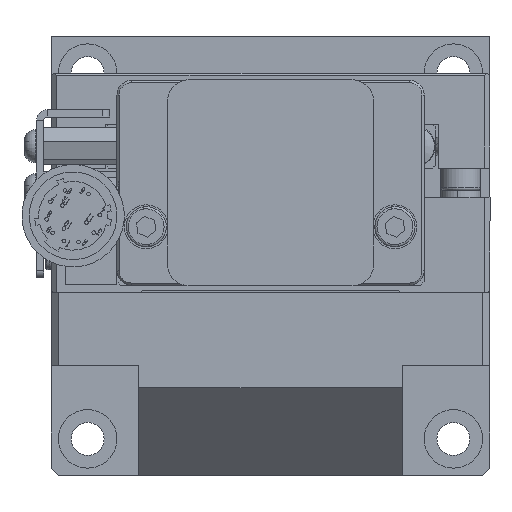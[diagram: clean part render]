
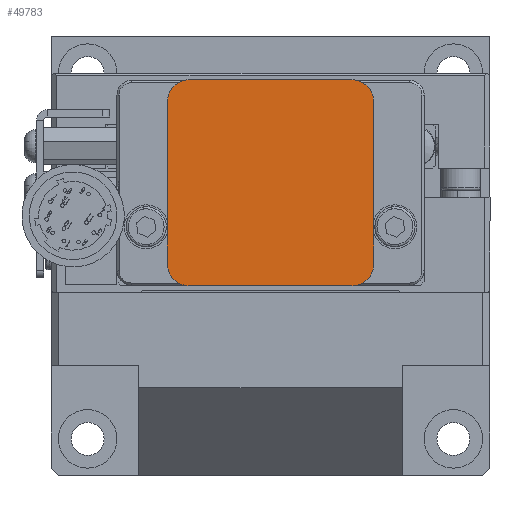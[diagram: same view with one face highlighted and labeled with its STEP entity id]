
A CAD part, front view. The second image highlights one B-rep face of the part: STEP entity #49783.
In plain terms, the highlighted planar face has unit normal (0, -1, 0).
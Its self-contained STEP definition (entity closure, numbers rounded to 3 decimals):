
#1632 = CARTESIAN_POINT ( 'NONE',  ( 11.1, -133., 26.1 ) ) ;
#3408 = CARTESIAN_POINT ( 'NONE',  ( -14.1, -133., 3.9 ) ) ;
#4447 = VERTEX_POINT ( 'NONE', #153942 ) ;
#5882 = VERTEX_POINT ( 'NONE', #134075 ) ;
#8030 = VERTEX_POINT ( 'NONE', #145589 ) ;
#9227 = CIRCLE ( 'NONE', #70155, 3. ) ;
#15377 = VECTOR ( 'NONE', #136511, 1000. ) ;
#20200 = VECTOR ( 'NONE', #67277, 1000. ) ;
#22974 = EDGE_CURVE ( 'NONE', #5882, #4447, #9227, .T. ) ;
#23562 = DIRECTION ( 'NONE',  ( 0., 0., -1. ) ) ;
#24322 = CARTESIAN_POINT ( 'NONE',  ( -11.1, -133., 26.1 ) ) ;
#30747 = CARTESIAN_POINT ( 'NONE',  ( -14.1, -133., 29.1 ) ) ;
#32252 = AXIS2_PLACEMENT_3D ( 'NONE', #145754, #60864, #82275 ) ;
#32946 = DIRECTION ( 'NONE',  ( -1., 0., 0. ) ) ;
#38330 = ORIENTED_EDGE ( 'NONE', *, *, #139880, .F. ) ;
#44807 = CARTESIAN_POINT ( 'NONE',  ( -14.1, -133., 0.9 ) ) ;
#45638 = CARTESIAN_POINT ( 'NONE',  ( -14.1, -133., 0.9 ) ) ;
#48577 = VERTEX_POINT ( 'NONE', #74658 ) ;
#49184 = DIRECTION ( 'NONE',  ( 0., -1., 0. ) ) ;
#49608 = CARTESIAN_POINT ( 'NONE',  ( 14.1, -133., 3.9 ) ) ;
#49783 = ADVANCED_FACE ( 'NONE', ( #64237 ), #51523, .T. ) ;
#50145 = DIRECTION ( 'NONE',  ( 0., -1., 0. ) ) ;
#51523 = PLANE ( 'NONE',  #141490 ) ;
#54902 = CARTESIAN_POINT ( 'NONE',  ( 11.1, -133., 0.9 ) ) ;
#57473 = DIRECTION ( 'NONE',  ( 0., 0., 1. ) ) ;
#58506 = CIRCLE ( 'NONE', #147245, 3. ) ;
#60864 = DIRECTION ( 'NONE',  ( 0., -1., 0. ) ) ;
#63360 = VERTEX_POINT ( 'NONE', #90447 ) ;
#64237 = FACE_OUTER_BOUND ( 'NONE', #148647, .T. ) ;
#64460 = AXIS2_PLACEMENT_3D ( 'NONE', #132425, #49184, #107854 ) ;
#67277 = DIRECTION ( 'NONE',  ( 1., 0., 0. ) ) ;
#70155 = AXIS2_PLACEMENT_3D ( 'NONE', #24322, #156244, #23562 ) ;
#74658 = CARTESIAN_POINT ( 'NONE',  ( -11.1, -133., 0.9 ) ) ;
#76138 = ORIENTED_EDGE ( 'NONE', *, *, #22974, .T. ) ;
#76825 = EDGE_CURVE ( 'NONE', #146172, #48577, #104349, .T. ) ;
#79662 = ORIENTED_EDGE ( 'NONE', *, *, #139462, .F. ) ;
#82275 = DIRECTION ( 'NONE',  ( 0., 0., -1. ) ) ;
#87990 = DIRECTION ( 'NONE',  ( -1., 0., 0. ) ) ;
#89215 = VERTEX_POINT ( 'NONE', #49608 ) ;
#90447 = CARTESIAN_POINT ( 'NONE',  ( 11.1, -133., 29.1 ) ) ;
#91399 = VECTOR ( 'NONE', #32946, 1000. ) ;
#102449 = CIRCLE ( 'NONE', #64460, 3. ) ;
#104349 = LINE ( 'NONE', #45638, #91399 ) ;
#105080 = LINE ( 'NONE', #44807, #127087 ) ;
#105734 = ORIENTED_EDGE ( 'NONE', *, *, #138816, .F. ) ;
#106795 = VERTEX_POINT ( 'NONE', #3408 ) ;
#107854 = DIRECTION ( 'NONE',  ( 0., 0., -1. ) ) ;
#108099 = ORIENTED_EDGE ( 'NONE', *, *, #144343, .T. ) ;
#108463 = ORIENTED_EDGE ( 'NONE', *, *, #76825, .F. ) ;
#109559 = EDGE_CURVE ( 'NONE', #8030, #63360, #58506, .T. ) ;
#110643 = CIRCLE ( 'NONE', #32252, 3. ) ;
#114866 = EDGE_CURVE ( 'NONE', #146172, #89215, #102449, .T. ) ;
#124408 = DIRECTION ( 'NONE',  ( 0., -1., 0. ) ) ;
#127087 = VECTOR ( 'NONE', #57473, 1000. ) ;
#132425 = CARTESIAN_POINT ( 'NONE',  ( 11.1, -133., 3.9 ) ) ;
#134075 = CARTESIAN_POINT ( 'NONE',  ( -11.1, -133., 29.1 ) ) ;
#135737 = CARTESIAN_POINT ( 'NONE',  ( 14.1, -133., 0.9 ) ) ;
#136511 = DIRECTION ( 'NONE',  ( 0., 0., -1. ) ) ;
#138816 = EDGE_CURVE ( 'NONE', #5882, #63360, #141806, .T. ) ;
#139462 = EDGE_CURVE ( 'NONE', #8030, #89215, #146933, .T. ) ;
#139696 = ORIENTED_EDGE ( 'NONE', *, *, #109559, .T. ) ;
#139880 = EDGE_CURVE ( 'NONE', #106795, #4447, #105080, .T. ) ;
#141490 = AXIS2_PLACEMENT_3D ( 'NONE', #148387, #124408, #87990 ) ;
#141806 = LINE ( 'NONE', #30747, #20200 ) ;
#144343 = EDGE_CURVE ( 'NONE', #106795, #48577, #110643, .T. ) ;
#145589 = CARTESIAN_POINT ( 'NONE',  ( 14.1, -133., 26.1 ) ) ;
#145754 = CARTESIAN_POINT ( 'NONE',  ( -11.1, -133., 3.9 ) ) ;
#146172 = VERTEX_POINT ( 'NONE', #54902 ) ;
#146933 = LINE ( 'NONE', #135737, #15377 ) ;
#146990 = DIRECTION ( 'NONE',  ( 0., 0., -1. ) ) ;
#147245 = AXIS2_PLACEMENT_3D ( 'NONE', #1632, #50145, #146990 ) ;
#148387 = CARTESIAN_POINT ( 'NONE',  ( 14.1, -133., 29.1 ) ) ;
#148647 = EDGE_LOOP ( 'NONE', ( #38330, #108099, #108463, #150620, #79662, #139696, #105734, #76138 ) ) ;
#150620 = ORIENTED_EDGE ( 'NONE', *, *, #114866, .T. ) ;
#153942 = CARTESIAN_POINT ( 'NONE',  ( -14.1, -133., 26.1 ) ) ;
#156244 = DIRECTION ( 'NONE',  ( 0., -1., 0. ) ) ;
